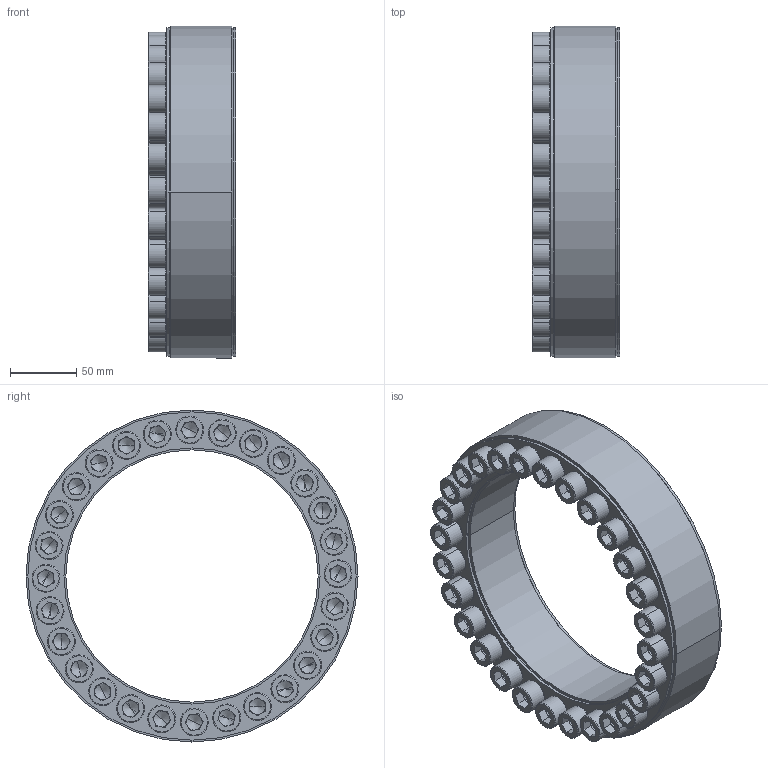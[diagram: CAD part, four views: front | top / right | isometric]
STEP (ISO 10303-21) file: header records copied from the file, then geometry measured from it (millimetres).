
FILE_DESCRIPTION (( 'STEP AP203' ), '1' );
FILE_NAME ('SAPL-D1-190-250.STEP', '2018-12-15T01:46:26', ( '' ), ( '' ), 'SwSTEP 2.0', 'SolidWorks 2015', '' );
FILE_SCHEMA (( 'CONFIG_CONTROL_DESIGN' ));
Length unit declared in the file: millimetre
Products named in the file (1): SAPL-D1-190-250
Bounding box: 66 x 249.98 x 249.98 mm (x, y, z)
Surface area: 233232.3 mm2 (no closed solid volume)
Topology: 0 solids, 60 shells, 714 faces, 1800 edges, 1078 vertices
Faces by surface type: plane 356, cylinder 180, torus 112, cone 66
Entity records: 20860 total; most frequent: DIRECTION 4000, CARTESIAN_POINT 3537, ORIENTED_EDGE 3122, EDGE_CURVE 1744, AXIS2_PLACEMENT_3D 1541, VERTEX_POINT 1078, LINE 918, VECTOR 918
